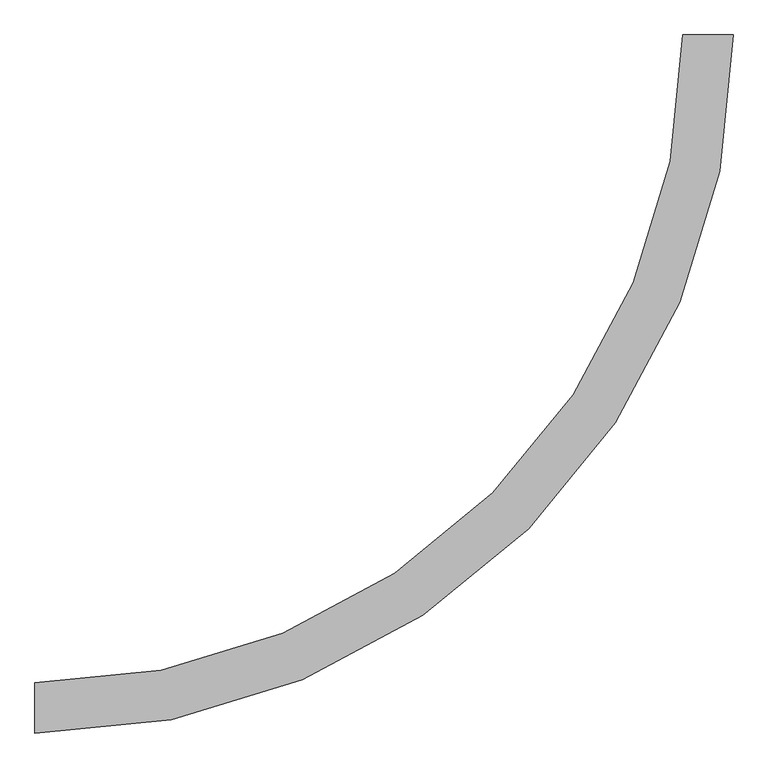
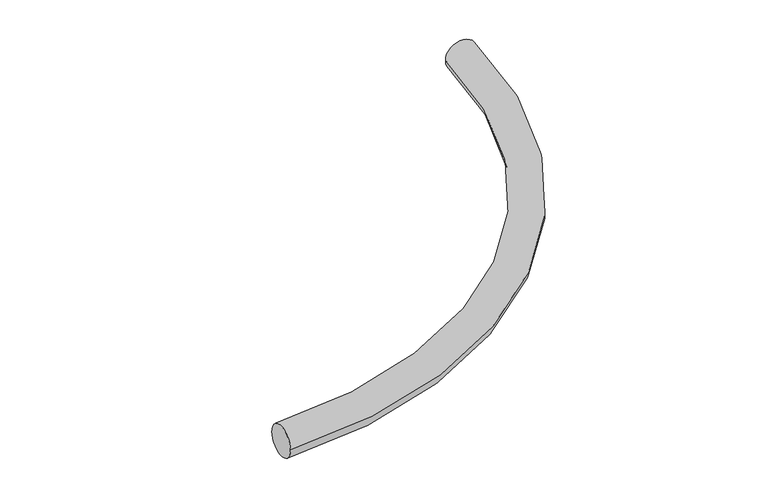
"""IFC4 building model written with IfcOpenShell, lengths in millimetres: duct segment geometry, NLRS_57_DUF_UN_Hybalans flexbend round_M&G : extract ø75 ø92 (red)."""

from ifc_helpers import new_model, si_unit, point, frame, origin, place, context, project, spatial, circle_curve, ellipse_curve, trimmed, source, transform, mapped, element, save
from ifc_brep_helpers import plane_surface, revolved_surface, advanced_brep


def duct_segment_19c8db6e(model_context):
    return source(origin(), model_context, "Body", "AdvancedBrep", [
        advanced_brep(
        [(-1000.0, -37.5, 0.0), (-1000.0, 37.5, 0.0), (37.5, 1000.0, 0.0), (-37.5, 1000.0, 0.0)],
        [
            (0, 1, circle_curve(frame((-1000.0, 0.0, 0.0), z_axis=(-1.0, 0.0, 0.0), x_axis=(0.0, 1.0, 0.0)), 37.5)),
            (1, 0, circle_curve(frame((-1000.0, 0.0, 0.0), z_axis=(-1.0, 0.0, 0.0), x_axis=(0.0, 1.0, 0.0)), 37.5)),
            (2, 3, circle_curve(frame((0.0, 1000.0, 0.0), z_axis=(0.0, 1.0, 0.0), x_axis=(-1.0, 0.0, 0.0)), 37.5)),
            (3, 2, circle_curve(frame((0.0, 1000.0, 0.0), z_axis=(0.0, 1.0, 0.0), x_axis=(-1.0, 0.0, 0.0)), 37.5)),
            (3, 1, circle_curve(frame((-1000.0, 1000.0, 0.0), z_axis=(0.0, 0.0, -1.0), x_axis=(0.0, -1.0, 0.0)), 962.5)),
            (0, 2, circle_curve(frame((-1000.0, 1000.0, 0.0), z_axis=(0.0, 0.0, 1.0), x_axis=(0.0, -1.0, 0.0)), 1037.5)),
        ],
        [
            plane_surface(frame((-1000.0, 0.0, 0.0), z_axis=(-1.0, 0.0, 0.0), x_axis=(0.0, 0.0, 1.0))),
            plane_surface(frame((0.0, 1000.0, 0.0), z_axis=(0.0, 1.0, 0.0), x_axis=(0.0, 0.0, 1.0))),
            revolved_surface(trimmed(ellipse_curve(frame((-1000.0, 0.0, 0.0), z_axis=(-1.0, 0.0, 0.0), x_axis=(0.0, 1.0, 0.0)), 37.5, 37.5), [point((-1000.0, -37.5, 0.0))], [point((-1000.0, 37.5, 0.0))], True, "CARTESIAN"), (-1000.0, 1000.0, 0.0), (0.0, 0.0, 1.0)),
            revolved_surface(trimmed(ellipse_curve(frame((-1000.0, 0.0, 0.0), z_axis=(-1.0, 0.0, 0.0), x_axis=(0.0, 1.0, 0.0)), 37.5, 37.5), [point((-1000.0, 37.5, 0.0))], [point((-1000.0, -37.5, 0.0))], True, "CARTESIAN"), (-1000.0, 1000.0, 0.0), (0.0, 0.0, 1.0)),
        ],
        [
            (0, [[1, 2]]),
            (1, [[3, 4]]),
            (2, [[5, -1, 6, -4]]),
            (3, [[-6, -2, -5, -3]]),
        ],
    ),
    ])


if __name__ == "__main__":
    model = new_model("IFC4")
    model_context = context("Model", 3, world=origin())
    ifc_project = project(units=[si_unit("LENGTHUNIT", "METRE", prefix="MILLI")], contexts=[model_context])
    site = spatial("IfcSite", under=ifc_project)
    building = spatial("IfcBuilding", under=site)
    placement = place(None, origin())
    duct_segment_shape = duct_segment_19c8db6e(model_context)
    element("IfcDuctSegment", 1, ObjectType="NLRS_57_DUF_UN_Hybalans flexbend round_M&G : extract ø75 ø92 (red)", at=placement, inside=building, context=model_context, shape_type="MappedRepresentation", body=[
        mapped(duct_segment_shape, transform((0.0, 0.0, 0.0), x_axis=(1.0, 0.0, 0.0), y_axis=(0.0, 1.0, 0.0), z_axis=(0.0, 0.0, 1.0))),
    ])
    save(model, "model.ifc")
